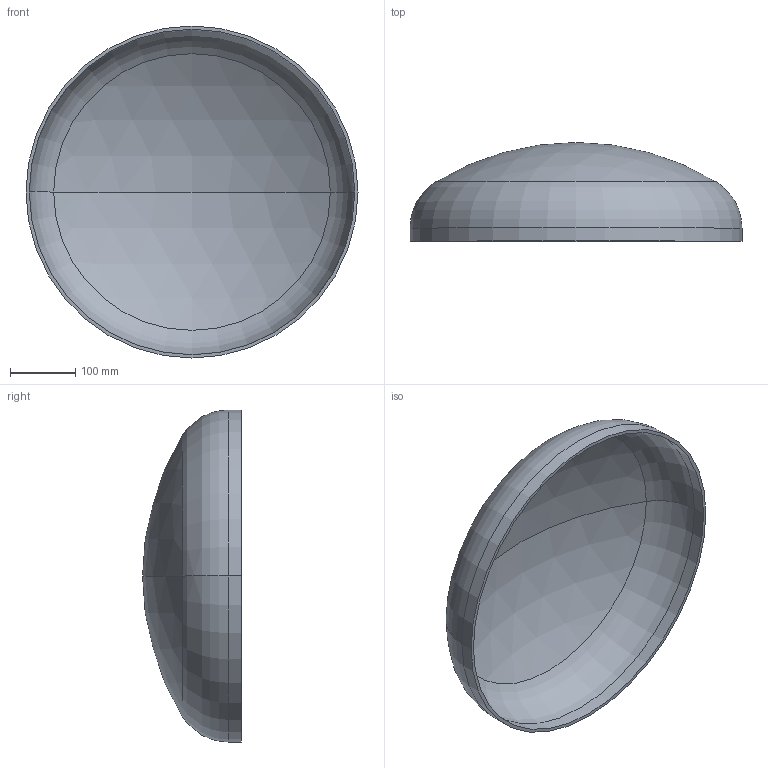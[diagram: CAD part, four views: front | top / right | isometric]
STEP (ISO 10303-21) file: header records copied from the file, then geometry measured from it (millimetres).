
FILE_DESCRIPTION (( 'STEP AP203' ), '1' );
FILE_NAME ('DIN 28013 Korbbogenform_-_Boden DIN 28013 - 508 x 20 - I - s=5.step', '2016-07-01T07:51:53', ( '' ), ( '' ), 'SwSTEP 2.0', 'SolidWorks 2013', '' );
FILE_SCHEMA (( 'CONFIG_CONTROL_DESIGN' ));
Length unit declared in the file: millimetre
Products named in the file (1): DIN 28013 Korbbogenform_-_Boden DIN 28013 - 508 x 20 - I - s=5
Bounding box: 508 x 151.1 x 508 mm (x, y, z)
Volume: 1542760.2 mm3; surface area: 625057.3 mm2
Topology: 1 solids, 1 shells, 13 faces, 24 edges, 14 vertices
Faces by surface type: torus 4, cylinder 4, sphere 4, plane 1
Entity records: 407 total; most frequent: DIRECTION 72, CARTESIAN_POINT 52, ORIENTED_EDGE 48, AXIS2_PLACEMENT_3D 34, EDGE_CURVE 24, CIRCLE 20, EDGE_LOOP 14, VERTEX_POINT 14
